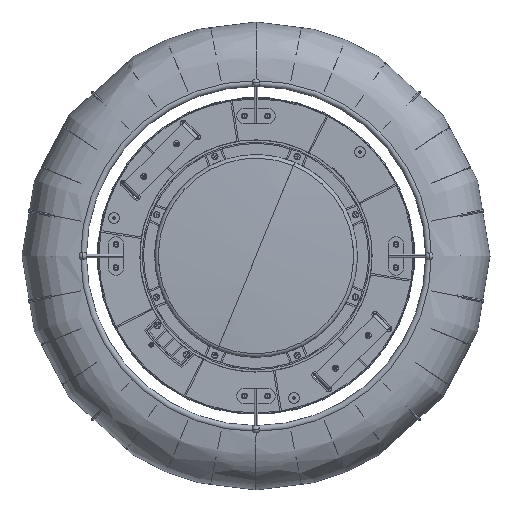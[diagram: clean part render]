
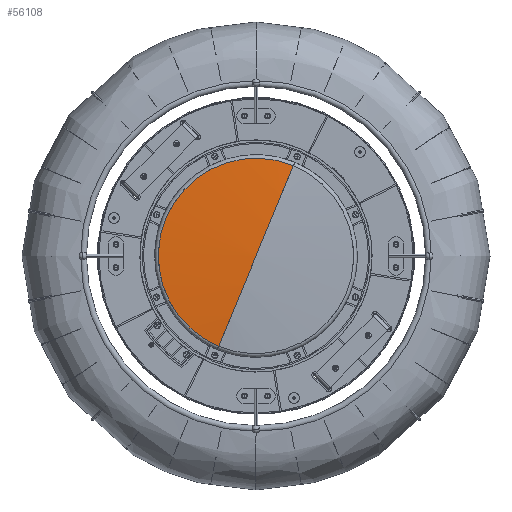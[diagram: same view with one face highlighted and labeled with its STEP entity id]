
A CAD part, front view. The second image highlights one B-rep face of the part: STEP entity #56108.
In plain terms, the highlighted spherical face has radius 1716.79 mm.
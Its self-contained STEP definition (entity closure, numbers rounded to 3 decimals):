
#467 = ORIENTED_EDGE ( 'NONE', *, *, #135900, .F. ) ;
#3384 = DIRECTION ( 'NONE',  ( 1., 0., 0. ) ) ;
#13243 = ORIENTED_EDGE ( 'NONE', *, *, #62965, .T. ) ;
#18005 = VERTEX_POINT ( 'NONE', #35672 ) ;
#25338 = CARTESIAN_POINT ( 'NONE',  ( 0., -1658.19, 0. ) ) ;
#32581 = DIRECTION ( 'NONE',  ( 0., 0., -1. ) ) ;
#33466 = CIRCLE ( 'NONE', #67308, 1716.79 ) ;
#35279 = DIRECTION ( 'NONE',  ( 0., 0., -1. ) ) ;
#35533 = VERTEX_POINT ( 'NONE', #49434 ) ;
#35672 = CARTESIAN_POINT ( 'NONE',  ( 0., 58.6, 0. ) ) ;
#37855 = AXIS2_PLACEMENT_3D ( 'NONE', #25338, #3384, #35279 ) ;
#40293 = CIRCLE ( 'NONE', #99152, 126.299 ) ;
#41146 = VERTEX_POINT ( 'NONE', #94719 ) ;
#49434 = CARTESIAN_POINT ( 'NONE',  ( 0., 53.948, -126.299 ) ) ;
#52733 = EDGE_LOOP ( 'NONE', ( #82574, #13243, #467 ) ) ;
#56108 = ADVANCED_FACE ( 'NONE', ( #89102 ), #57910, .T. ) ;
#57910 = SPHERICAL_SURFACE ( 'NONE', #37855, 1716.79 ) ;
#59129 = CARTESIAN_POINT ( 'NONE',  ( 0., 53.948, 0. ) ) ;
#62965 = EDGE_CURVE ( 'NONE', #18005, #35533, #83363, .T. ) ;
#67308 = AXIS2_PLACEMENT_3D ( 'NONE', #109045, #100545, #32581 ) ;
#81098 = DIRECTION ( 'NONE',  ( 0., -1., 0. ) ) ;
#82574 = ORIENTED_EDGE ( 'NONE', *, *, #125521, .F. ) ;
#83363 = CIRCLE ( 'NONE', #124031, 1716.79 ) ;
#89102 = FACE_OUTER_BOUND ( 'NONE', #52733, .T. ) ;
#94719 = CARTESIAN_POINT ( 'NONE',  ( 0., 53.948, 126.299 ) ) ;
#99152 = AXIS2_PLACEMENT_3D ( 'NONE', #59129, #81098, #102367 ) ;
#100545 = DIRECTION ( 'NONE',  ( 1., 0., 0. ) ) ;
#102367 = DIRECTION ( 'NONE',  ( 0., 0., -1. ) ) ;
#105032 = DIRECTION ( 'NONE',  ( -1., 0., 0. ) ) ;
#109045 = CARTESIAN_POINT ( 'NONE',  ( 0., -1658.19, 0. ) ) ;
#115647 = CARTESIAN_POINT ( 'NONE',  ( 0., -1658.19, 0. ) ) ;
#124031 = AXIS2_PLACEMENT_3D ( 'NONE', #115647, #105032, #126282 ) ;
#125521 = EDGE_CURVE ( 'NONE', #18005, #41146, #33466, .T. ) ;
#126282 = DIRECTION ( 'NONE',  ( 0., 0., 1. ) ) ;
#135900 = EDGE_CURVE ( 'NONE', #41146, #35533, #40293, .T. ) ;
